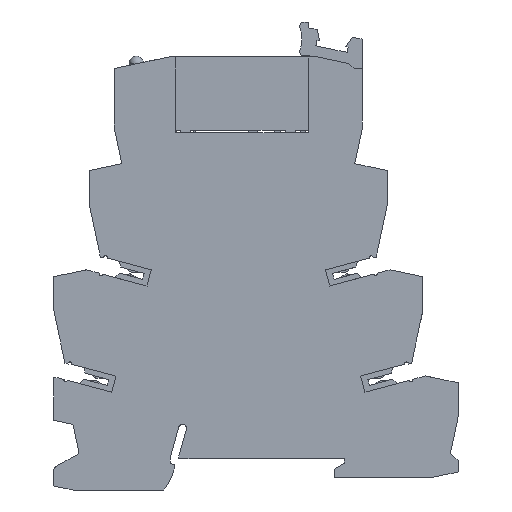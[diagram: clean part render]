
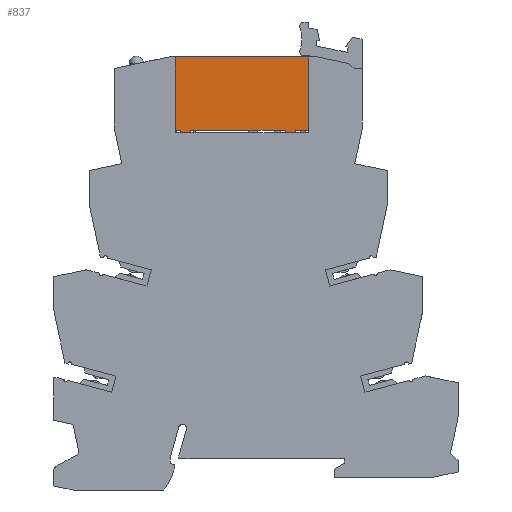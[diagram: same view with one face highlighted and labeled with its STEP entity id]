
A CAD part, left-side view. The second image highlights one B-rep face of the part: STEP entity #837.
In plain terms, the highlighted planar face has unit normal (-1, 0, 0).
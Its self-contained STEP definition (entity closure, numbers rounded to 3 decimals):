
#34=CARTESIAN_POINT('',(0.55,32.215,71.2));
#35=VERTEX_POINT('',#34);
#50=CARTESIAN_POINT('',(0.55,34.215,71.2));
#51=VERTEX_POINT('',#50);
#58=CARTESIAN_POINT('',(0.55,53.005,71.2));
#59=VERTEX_POINT('',#58);
#60=CARTESIAN_POINT('',(0.55,53.005,71.2));
#61=DIRECTION('',(-0.,-1.,0.));
#62=VECTOR('',#61,18.79);
#63=LINE('',#60,#62);
#64=EDGE_CURVE('',#59,#51,#63,.T.);
#82=CARTESIAN_POINT('',(0.55,55.005,71.2));
#83=VERTEX_POINT('',#82);
#90=CARTESIAN_POINT('',(0.55,56.795,71.2));
#91=VERTEX_POINT('',#90);
#92=CARTESIAN_POINT('',(0.55,56.795,71.2));
#93=DIRECTION('',(-0.,-1.,0.));
#94=VECTOR('',#93,1.79);
#95=LINE('',#92,#94);
#96=EDGE_CURVE('',#91,#83,#95,.T.);
#178=CARTESIAN_POINT('',(0.55,28.795,71.2));
#179=VERTEX_POINT('',#178);
#186=CARTESIAN_POINT('',(0.55,32.215,71.2));
#187=DIRECTION('',(-0.,-1.,0.));
#188=VECTOR('',#187,3.42);
#189=LINE('',#186,#188);
#190=EDGE_CURVE('',#35,#179,#189,.T.);
#761=CARTESIAN_POINT('',(0.55,42.795,70.7));
#762=DIRECTION('',(-1.,0.,0.));
#763=DIRECTION('',(0.,0.,1.));
#764=AXIS2_PLACEMENT_3D('',#761,#762,#763);
#765=PLANE('',#764);
#766=ORIENTED_EDGE('',*,*,#64,.T.);
#767=CARTESIAN_POINT('',(0.55,34.215,70.7));
#768=VERTEX_POINT('',#767);
#769=CARTESIAN_POINT('',(0.55,34.215,70.7));
#770=DIRECTION('',(0.,0.,1.));
#771=VECTOR('',#770,0.5);
#772=LINE('',#769,#771);
#773=EDGE_CURVE('',#768,#51,#772,.T.);
#774=ORIENTED_EDGE('',*,*,#773,.F.);
#775=CARTESIAN_POINT('',(0.55,32.215,70.7));
#776=VERTEX_POINT('',#775);
#777=CARTESIAN_POINT('',(0.55,34.215,70.7));
#778=DIRECTION('',(-0.,-1.,0.));
#779=VECTOR('',#778,2.);
#780=LINE('',#777,#779);
#781=EDGE_CURVE('',#768,#776,#780,.T.);
#782=ORIENTED_EDGE('',*,*,#781,.T.);
#783=CARTESIAN_POINT('',(0.55,32.215,71.2));
#784=DIRECTION('',(-0.,-0.,-1.));
#785=VECTOR('',#784,0.5);
#786=LINE('',#783,#785);
#787=EDGE_CURVE('',#35,#776,#786,.T.);
#788=ORIENTED_EDGE('',*,*,#787,.F.);
#789=ORIENTED_EDGE('',*,*,#190,.T.);
#790=CARTESIAN_POINT('',(0.55,28.795,85.7));
#791=VERTEX_POINT('',#790);
#792=CARTESIAN_POINT('',(0.55,28.795,71.2));
#793=DIRECTION('',(0.,0.,1.));
#794=VECTOR('',#793,14.5);
#795=LINE('',#792,#794);
#796=EDGE_CURVE('',#179,#791,#795,.T.);
#797=ORIENTED_EDGE('',*,*,#796,.T.);
#798=CARTESIAN_POINT('',(0.55,56.795,85.7));
#799=VERTEX_POINT('',#798);
#800=CARTESIAN_POINT('',(0.55,56.795,85.7));
#801=DIRECTION('',(-0.,-1.,0.));
#802=VECTOR('',#801,28.);
#803=LINE('',#800,#802);
#804=EDGE_CURVE('',#799,#791,#803,.T.);
#805=ORIENTED_EDGE('',*,*,#804,.F.);
#806=CARTESIAN_POINT('',(0.55,56.795,85.7));
#807=DIRECTION('',(-0.,-0.,-1.));
#808=VECTOR('',#807,14.5);
#809=LINE('',#806,#808);
#810=EDGE_CURVE('',#799,#91,#809,.T.);
#811=ORIENTED_EDGE('',*,*,#810,.T.);
#812=ORIENTED_EDGE('',*,*,#96,.T.);
#813=CARTESIAN_POINT('',(0.55,55.005,70.7));
#814=VERTEX_POINT('',#813);
#815=CARTESIAN_POINT('',(0.55,55.005,70.7));
#816=DIRECTION('',(0.,0.,1.));
#817=VECTOR('',#816,0.5);
#818=LINE('',#815,#817);
#819=EDGE_CURVE('',#814,#83,#818,.T.);
#820=ORIENTED_EDGE('',*,*,#819,.F.);
#821=CARTESIAN_POINT('',(0.55,53.005,70.7));
#822=VERTEX_POINT('',#821);
#823=CARTESIAN_POINT('',(0.55,55.005,70.7));
#824=DIRECTION('',(-0.,-1.,0.));
#825=VECTOR('',#824,2.);
#826=LINE('',#823,#825);
#827=EDGE_CURVE('',#814,#822,#826,.T.);
#828=ORIENTED_EDGE('',*,*,#827,.T.);
#829=CARTESIAN_POINT('',(0.55,53.005,71.2));
#830=DIRECTION('',(-0.,-0.,-1.));
#831=VECTOR('',#830,0.5);
#832=LINE('',#829,#831);
#833=EDGE_CURVE('',#59,#822,#832,.T.);
#834=ORIENTED_EDGE('',*,*,#833,.F.);
#835=EDGE_LOOP('',(#766,#774,#782,#788,#789,#797,#805,#811,#812,#820,#828,#834));
#836=FACE_BOUND('',#835,.T.);
#837=ADVANCED_FACE('',(#836),#765,.T.);
